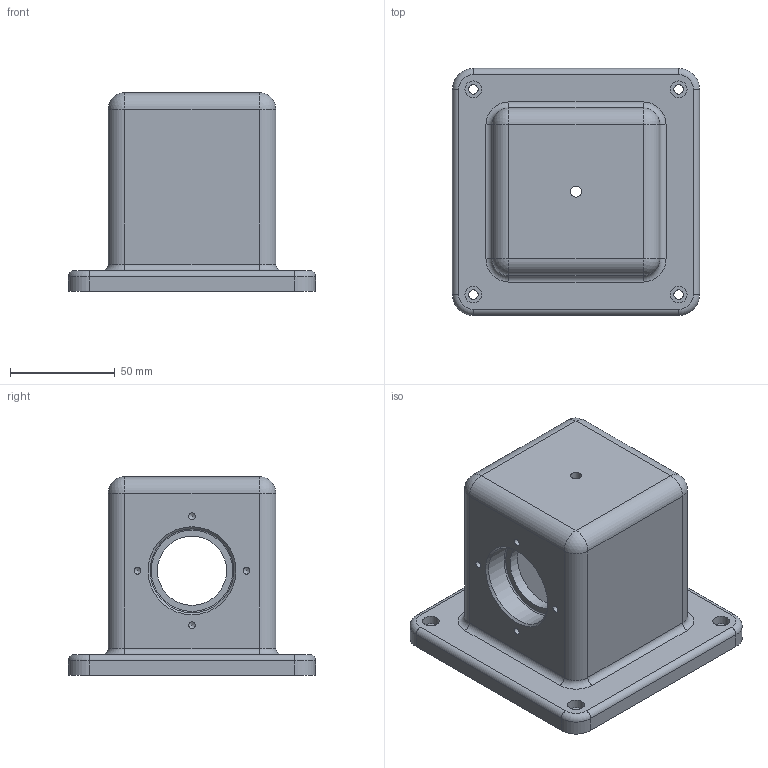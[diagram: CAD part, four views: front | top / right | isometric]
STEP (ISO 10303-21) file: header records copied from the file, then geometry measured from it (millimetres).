
FILE_DESCRIPTION(/* description */ (''),/* implementation_level */ '2;1');
FILE_NAME(/* name */ 'C:\Users\net\Desktop\391103E1009 .stp',/* time_stamp */ '2019-11-16T11:34:33+09:00',/* author */ ('net'),/* organization */ (''),/* preprocessor_version */ 'ST-DEVELOPER v15.2',/* originating_system */ 'Autodesk Inventor 2014',/* authorisation */ '');
FILE_SCHEMA (('AUTOMOTIVE_DESIGN { 1 0 10303 214 3 1 1 }'));
Length unit declared in the file: millimetre
Products named in the file (1): 391103E1009 
Bounding box: 118 x 118 x 95 mm (x, y, z)
Volume: 399014.2 mm3; surface area: 75346.1 mm2
Topology: 1 solids, 1 shells, 99 faces, 216 edges, 127 vertices
Faces by surface type: cylinder 49, plane 22, torus 10, cone 10, sphere 8
Full cylindrical faces by diameter (mm): 3.242 x8, 4.5 x4, 5.188 x1, 8 x4, 33 x2, 40 x2
Entity records: 2495 total; most frequent: DIRECTION 484, CARTESIAN_POINT 392, ORIENTED_EDGE 348, AXIS2_PLACEMENT_3D 210, EDGE_CURVE 174, EDGE_LOOP 154, VERTEX_POINT 118, CIRCLE 110
